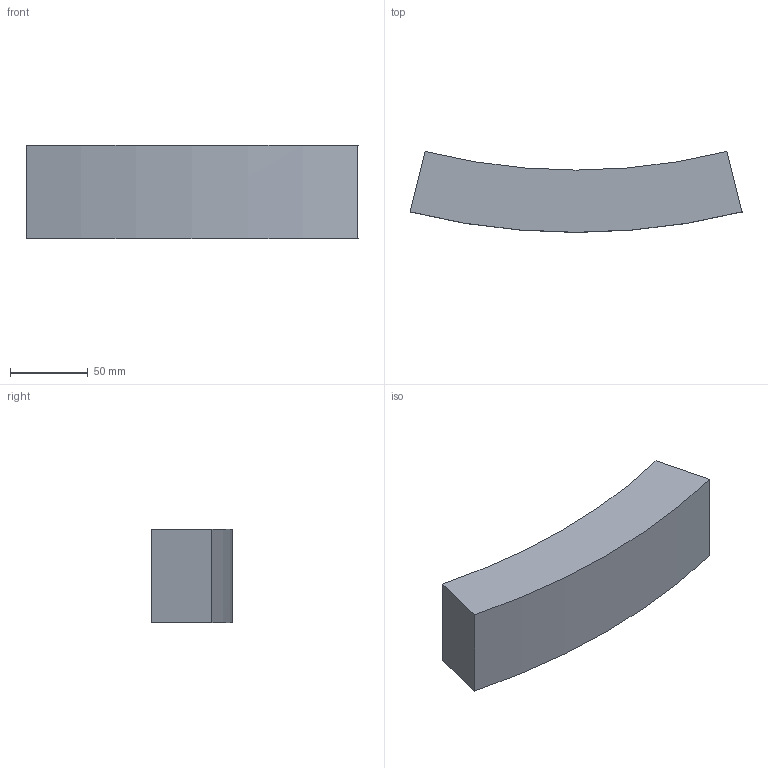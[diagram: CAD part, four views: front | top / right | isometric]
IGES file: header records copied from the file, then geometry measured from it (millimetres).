
Start section:  PTC IGES file: d160-1600_fixbloc_d400_pk-01.igs
Global section: file name: d160-1600_fixbloc_d400_pk-01.igs; native system: Creo Parametric by PTC Inc.; preprocessor: 2019030; author: demmerls; organization: Unknown; date: 20200928.082308; units: millimetre
Bounding box: 213.39 x 51.94 x 60 mm (x, y, z)
Surface area: 45947.4 mm2 (no closed solid volume)
Topology: 0 solids, 0 shells, 6 faces, 24 edges, 24 vertices
Faces by surface type: bspline 6
